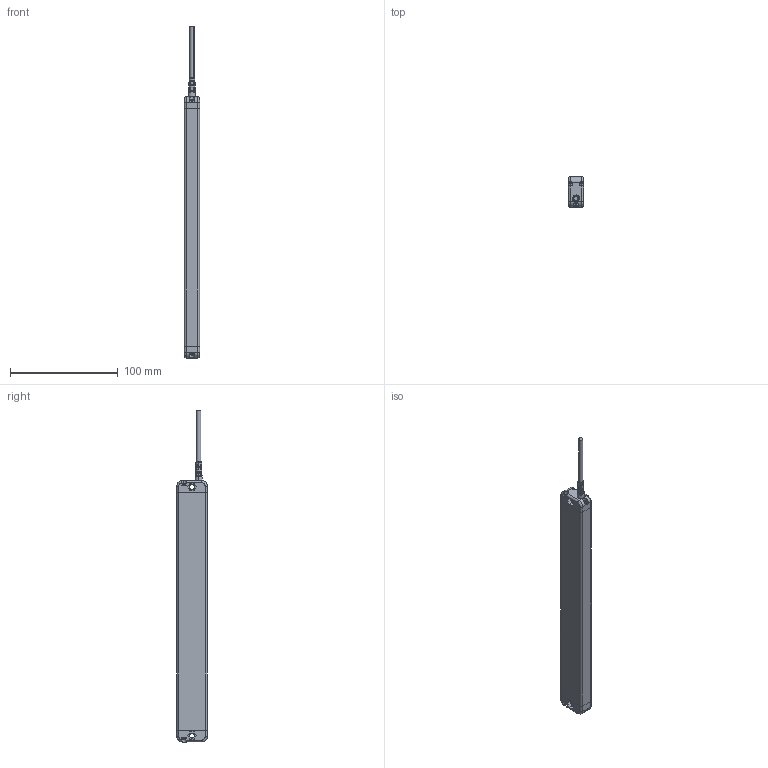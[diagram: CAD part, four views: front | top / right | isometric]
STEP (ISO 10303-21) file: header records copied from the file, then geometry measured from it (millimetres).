
FILE_DESCRIPTION (( 'STEP AP214' ), '1' );
FILE_NAME ('PG3-10RT-20.STEP', '2025-08-19T06:42:59', ( 'Windows User' ), ( 'P R C' ), 'SwSTEP 2.0', 'SolidWorks 2023', '' );
FILE_SCHEMA (( 'AUTOMOTIVE_DESIGN' ));
Length unit declared in the file: millimetre
Products named in the file (3): PG3-10RT-20; PG3-10-30; PG3后端盖
Assembly tree (2 placements, depth 2):
  PG3-10RT-20
    PG3-10-30
    PG3后端盖
Bounding box: 14 x 28 x 307.51 mm (x, y, z)
Volume: 92000.7 mm3; surface area: 23975.5 mm2
Topology: 6 solids, 6 shells, 334 faces, 882 edges, 578 vertices
Faces by surface type: plane 183, cylinder 110, bspline 22, cone 19
Entity records: 11747 total; most frequent: CARTESIAN_POINT 3752, ORIENTED_EDGE 1764, DIRECTION 1504, EDGE_CURVE 882, VERTEX_POINT 578, AXIS2_PLACEMENT_3D 546, LINE 412, VECTOR 412
